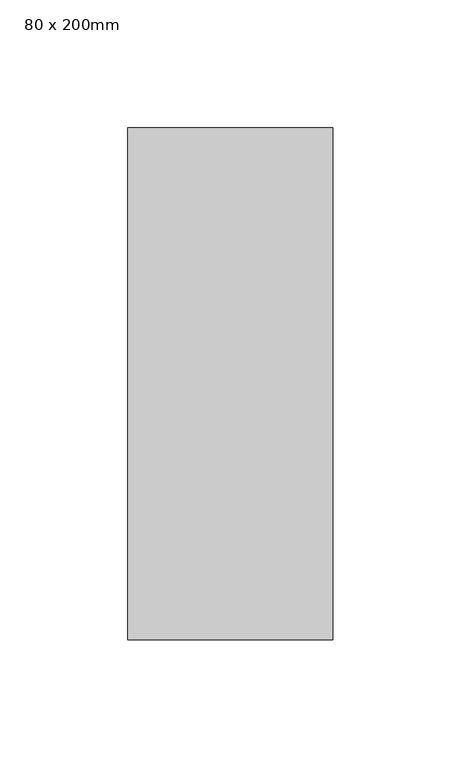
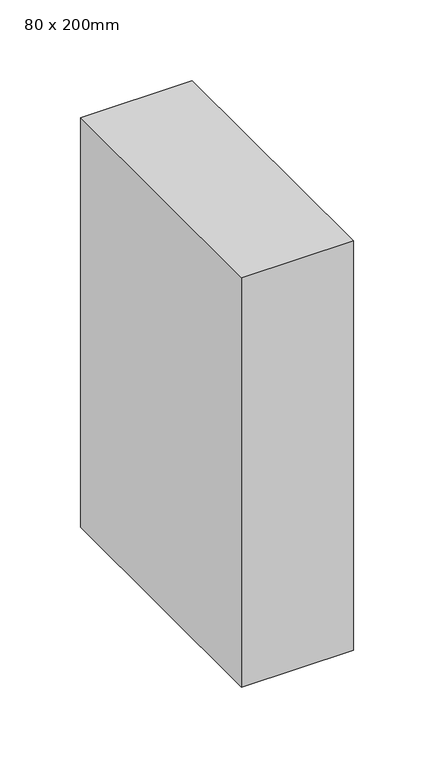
"""IFC4 building model written with IfcOpenShell, lengths in millimetres: member geometry, 矩形竖梃 : 80 x 200mm."""

from ifc_helpers import new_model, si_unit, frame, origin, place, context, project, spatial, polyline, outline, extrude, source, transform, mapped, element, save


def member_80_x_200mm_d4063cdf(model_context):
    return source(origin(), model_context, "Body", "SweptSolid", [
        extrude(outline(polyline([(0.0, 100.0), (0.0, -100.0), (-80.0, -100.0), (-80.0, 100.0), (0.0, 100.0)])), frame((0.0, 0.0, -309.9999991), z_axis=(0.0, 0.0, 1.0), x_axis=(1.0, 0.0, 0.0)), (0.0, 0.0, 1.0), 309.9999991),
    ])


if __name__ == "__main__":
    model = new_model("IFC4")
    model_context = context("Model", 3, world=origin())
    ifc_project = project(units=[si_unit("LENGTHUNIT", "METRE", prefix="MILLI")], contexts=[model_context])
    site = spatial("IfcSite", under=ifc_project)
    building = spatial("IfcBuilding", under=site)
    placement = place(None, origin())
    member_80_x_200mm_shape = member_80_x_200mm_d4063cdf(model_context)
    element("IfcMember", 1, ObjectType="矩形竖梃 : 80 x 200mm", at=placement, inside=building, context=model_context, shape_type="MappedRepresentation", body=[
        mapped(member_80_x_200mm_shape, transform((0.0, 0.0, 0.0), x_axis=(1.0, 0.0, 0.0), y_axis=(0.0, 1.0, 0.0), z_axis=(0.0, 0.0, 1.0))),
    ])
    save(model, "model.ifc")
